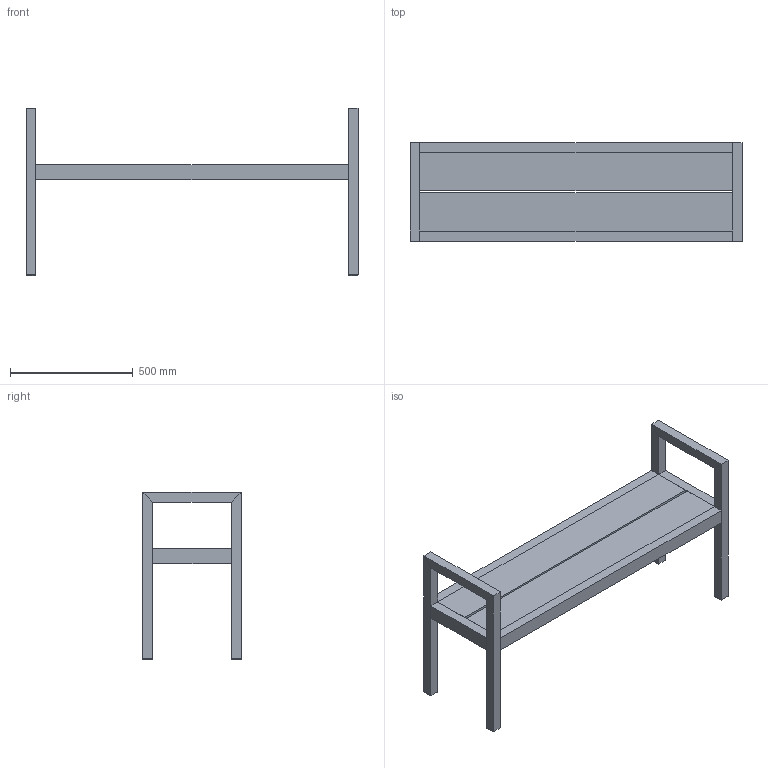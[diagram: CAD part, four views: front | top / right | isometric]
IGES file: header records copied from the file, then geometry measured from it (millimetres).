
Global section: file name: C:\Users\Timo Mikkonen\Desktop\Nikari 3d. tiedostot rfa\STOOLS & BENCHES\iges\Seminar KVI2 Bench.igs; native system: Rhinoceros ( Sep  8 2025 ); preprocessor: Trout Lake IGES 012 Sep  8 2025; date: 250916.111832; units: millimetre
Bounding box: 1350 x 400 x 680 mm (x, y, z)
Surface area: 2122677.6 mm2 (no closed solid volume)
Topology: 0 solids, 0 shells, 88 faces, 884 edges, 884 vertices
Faces by surface type: bspline 88
